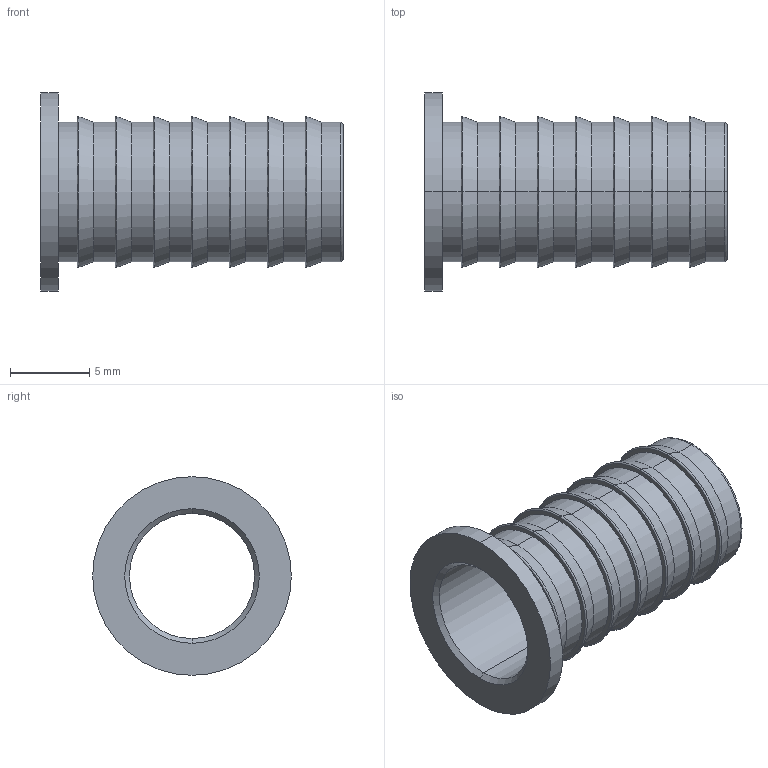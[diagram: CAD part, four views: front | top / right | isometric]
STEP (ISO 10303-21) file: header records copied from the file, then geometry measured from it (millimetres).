
FILE_DESCRIPTION (( 'STEP AP203' ), '1' );
FILE_NAME ('DTI08-06 SS.STEP', '2009-09-08T09:58:20', ( ' ' ), ( '' ), 'SwSTEP 2.0', 'SolidWorks 2008', '' );
FILE_SCHEMA (( 'CONFIG_CONTROL_DESIGN' ));
Length unit declared in the file: millimetre
Products named in the file (1): DTI08-06 SS
Bounding box: 19.1 x 12.55 x 12.55 mm (x, y, z)
Volume: 333.3 mm3; surface area: 1242.9 mm2
Topology: 1 solids, 1 shells, 64 faces, 128 edges, 74 vertices
Faces by surface type: cylinder 20, cone 18, torus 16, plane 10
Entity records: 1751 total; most frequent: DIRECTION 348, CARTESIAN_POINT 267, ORIENTED_EDGE 256, AXIS2_PLACEMENT_3D 155, EDGE_CURVE 128, CIRCLE 90, VERTEX_POINT 74, EDGE_LOOP 74
